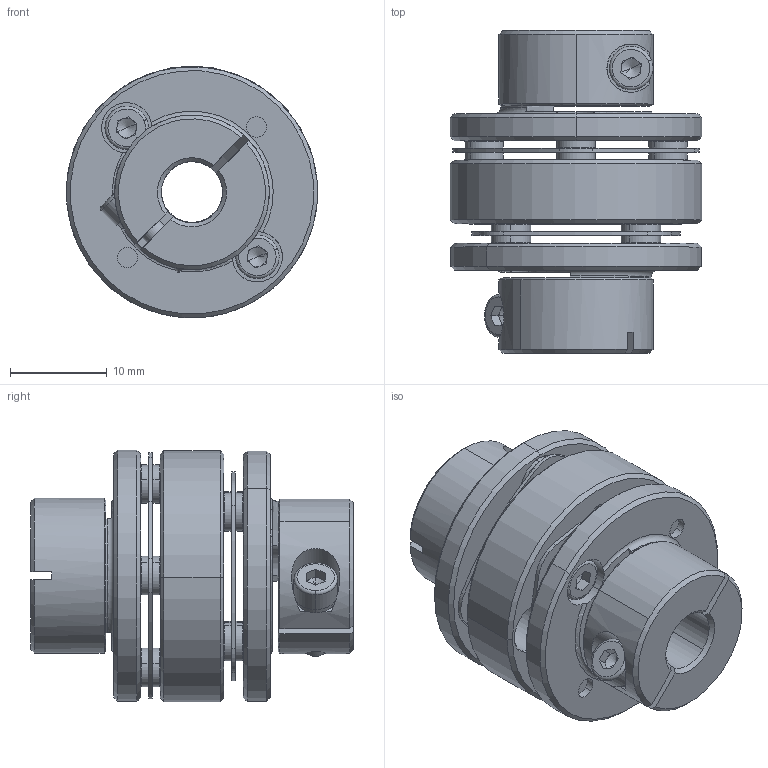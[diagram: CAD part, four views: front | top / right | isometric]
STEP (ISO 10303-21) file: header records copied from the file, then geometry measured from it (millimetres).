
FILE_DESCRIPTION (( 'STEP AP203' ), '1' );
FILE_NAME ('LE2-B-D26L35-6.35-6.35.STEP', '2021-11-01T05:47:53', ( '' ), ( '' ), 'SwSTEP 2.0', 'SolidWorks 2018', '' );
FILE_SCHEMA (( 'CONFIG_CONTROL_DESIGN' ));
Length unit declared in the file: millimetre
Products named in the file (1): LE2-B-D26L35-6.35-6.35
Bounding box: 26 x 33.4 x 26.06 mm (x, y, z)
Volume: 7788 mm3; surface area: 8355.2 mm2
Topology: 1 solids, 17 shells, 676 faces, 1573 edges, 945 vertices
Faces by surface type: cylinder 227, plane 220, cone 205, torus 24
Entity records: 19513 total; most frequent: DIRECTION 3652, CARTESIAN_POINT 3504, ORIENTED_EDGE 3106, EDGE_CURVE 1553, AXIS2_PLACEMENT_3D 1477, VERTEX_POINT 945, CIRCLE 800, EDGE_LOOP 784
